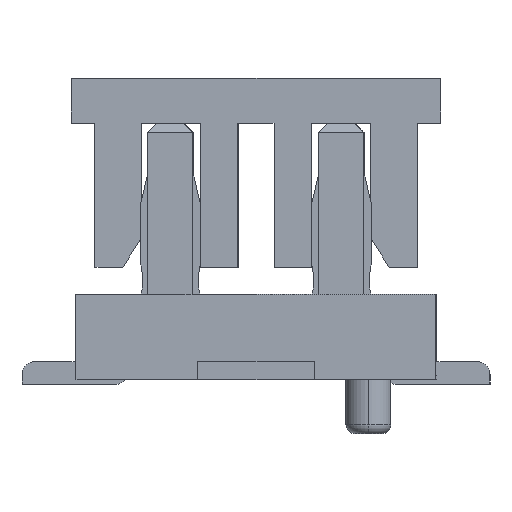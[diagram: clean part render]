
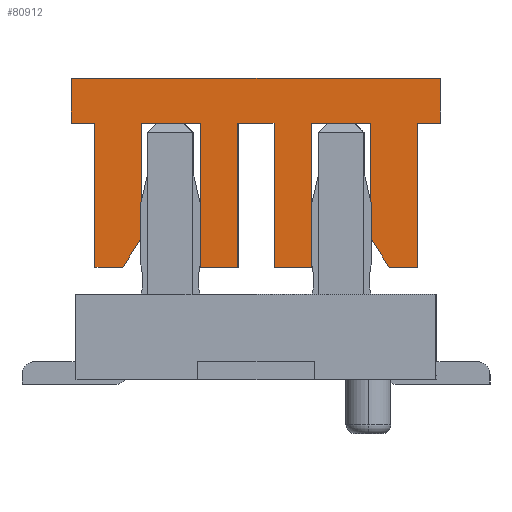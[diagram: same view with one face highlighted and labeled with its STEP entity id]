
A CAD part, left-side view. The second image highlights one B-rep face of the part: STEP entity #80912.
In plain terms, the highlighted planar face has unit normal (-1, 0, 0).
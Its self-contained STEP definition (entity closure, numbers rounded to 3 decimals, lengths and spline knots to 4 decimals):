
#80245=CARTESIAN_POINT('Vertex',(-4.,-0.62,1.25)) ;
#80250=CARTESIAN_POINT('Line Origine',(-4.,-0.41,1.25)) ;
#80254=CARTESIAN_POINT('Vertex',(-4.,-0.2,1.25)) ;
#80281=CARTESIAN_POINT('Line Origine',(-4.,-0.2,2.05)) ;
#80285=CARTESIAN_POINT('Vertex',(-4.,-0.2,2.85)) ;
#80312=CARTESIAN_POINT('Line Origine',(-4.,0.,2.85)) ;
#80316=CARTESIAN_POINT('Vertex',(-4.,0.2,2.85)) ;
#80343=CARTESIAN_POINT('Line Origine',(-4.,0.2,2.05)) ;
#80347=CARTESIAN_POINT('Vertex',(-4.,0.2,1.25)) ;
#80369=CARTESIAN_POINT('Line Origine',(-4.,0.41,1.25)) ;
#80373=CARTESIAN_POINT('Vertex',(-4.,0.62,1.25)) ;
#80400=CARTESIAN_POINT('Line Origine',(-4.,0.62,2.05)) ;
#80404=CARTESIAN_POINT('Vertex',(-4.,0.62,2.85)) ;
#80426=CARTESIAN_POINT('Line Origine',(-4.,0.945,2.85)) ;
#80430=CARTESIAN_POINT('Vertex',(-4.,1.27,2.85)) ;
#80457=CARTESIAN_POINT('Line Origine',(-4.,1.27,2.215)) ;
#80461=CARTESIAN_POINT('Vertex',(-4.,1.27,1.58)) ;
#80488=CARTESIAN_POINT('Line Origine',(-4.,1.375,1.415)) ;
#80492=CARTESIAN_POINT('Vertex',(-4.,1.48,1.25)) ;
#80514=CARTESIAN_POINT('Line Origine',(-4.,1.635,1.25)) ;
#80518=CARTESIAN_POINT('Vertex',(-4.,1.79,1.25)) ;
#80545=CARTESIAN_POINT('Line Origine',(-4.,1.79,2.05)) ;
#80549=CARTESIAN_POINT('Vertex',(-4.,1.79,2.85)) ;
#80571=CARTESIAN_POINT('Line Origine',(-4.,1.92,2.85)) ;
#80575=CARTESIAN_POINT('Vertex',(-4.,2.05,2.85)) ;
#80602=CARTESIAN_POINT('Line Origine',(-4.,2.05,3.1)) ;
#80606=CARTESIAN_POINT('Vertex',(-4.,2.05,3.35)) ;
#80633=CARTESIAN_POINT('Line Origine',(-4.,0.,3.35)) ;
#80637=CARTESIAN_POINT('Vertex',(-4.,-2.05,3.35)) ;
#80664=CARTESIAN_POINT('Line Origine',(-4.,-2.05,3.1)) ;
#80668=CARTESIAN_POINT('Vertex',(-4.,-2.05,2.85)) ;
#80690=CARTESIAN_POINT('Line Origine',(-4.,-1.92,2.85)) ;
#80694=CARTESIAN_POINT('Vertex',(-4.,-1.79,2.85)) ;
#80721=CARTESIAN_POINT('Line Origine',(-4.,-1.79,2.05)) ;
#80725=CARTESIAN_POINT('Vertex',(-4.,-1.79,1.25)) ;
#80747=CARTESIAN_POINT('Line Origine',(-4.,-1.635,1.25)) ;
#80751=CARTESIAN_POINT('Vertex',(-4.,-1.48,1.25)) ;
#80778=CARTESIAN_POINT('Line Origine',(-4.,-1.375,1.415)) ;
#80782=CARTESIAN_POINT('Vertex',(-4.,-1.27,1.58)) ;
#80809=CARTESIAN_POINT('Line Origine',(-4.,-1.27,2.215)) ;
#80813=CARTESIAN_POINT('Vertex',(-4.,-1.27,2.85)) ;
#80835=CARTESIAN_POINT('Line Origine',(-4.,-0.945,2.85)) ;
#80839=CARTESIAN_POINT('Vertex',(-4.,-0.62,2.85)) ;
#80866=CARTESIAN_POINT('Line Origine',(-4.,-0.62,2.05)) ;
#80883=CARTESIAN_POINT('Axis2P3D Location',(-4.,0.,0.)) ;
#80251=DIRECTION('Vector Direction',(0.,1.,0.)) ;
#80282=DIRECTION('Vector Direction',(0.,0.,1.)) ;
#80313=DIRECTION('Vector Direction',(0.,1.,0.)) ;
#80344=DIRECTION('Vector Direction',(0.,0.,-1.)) ;
#80370=DIRECTION('Vector Direction',(0.,1.,0.)) ;
#80401=DIRECTION('Vector Direction',(0.,0.,1.)) ;
#80427=DIRECTION('Vector Direction',(0.,1.,0.)) ;
#80458=DIRECTION('Vector Direction',(0.,0.,-1.)) ;
#80489=DIRECTION('Vector Direction',(0.,0.537,-0.844)) ;
#80515=DIRECTION('Vector Direction',(0.,1.,0.)) ;
#80546=DIRECTION('Vector Direction',(0.,0.,1.)) ;
#80572=DIRECTION('Vector Direction',(0.,1.,0.)) ;
#80603=DIRECTION('Vector Direction',(0.,0.,1.)) ;
#80634=DIRECTION('Vector Direction',(0.,1.,0.)) ;
#80665=DIRECTION('Vector Direction',(0.,0.,1.)) ;
#80691=DIRECTION('Vector Direction',(0.,-1.,0.)) ;
#80722=DIRECTION('Vector Direction',(0.,0.,1.)) ;
#80748=DIRECTION('Vector Direction',(0.,-1.,0.)) ;
#80779=DIRECTION('Vector Direction',(0.,-0.537,-0.844)) ;
#80810=DIRECTION('Vector Direction',(0.,0.,-1.)) ;
#80836=DIRECTION('Vector Direction',(0.,-1.,0.)) ;
#80867=DIRECTION('Vector Direction',(0.,0.,1.)) ;
#80884=DIRECTION('Axis2P3D Direction',(1.,0.,0.)) ;
#80885=DIRECTION('Axis2P3D XDirection',(0.,1.,0.)) ;
#80886=AXIS2_PLACEMENT_3D('Plane Axis2P3D',#80883,#80884,#80885) ;
#80889=ORIENTED_EDGE('',*,*,#80870,.F.) ;
#80890=ORIENTED_EDGE('',*,*,#80841,.F.) ;
#80891=ORIENTED_EDGE('',*,*,#80815,.F.) ;
#80892=ORIENTED_EDGE('',*,*,#80784,.F.) ;
#80893=ORIENTED_EDGE('',*,*,#80753,.F.) ;
#80894=ORIENTED_EDGE('',*,*,#80727,.F.) ;
#80895=ORIENTED_EDGE('',*,*,#80696,.F.) ;
#80896=ORIENTED_EDGE('',*,*,#80670,.F.) ;
#80897=ORIENTED_EDGE('',*,*,#80639,.F.) ;
#80898=ORIENTED_EDGE('',*,*,#80608,.F.) ;
#80899=ORIENTED_EDGE('',*,*,#80577,.F.) ;
#80900=ORIENTED_EDGE('',*,*,#80551,.F.) ;
#80901=ORIENTED_EDGE('',*,*,#80520,.F.) ;
#80902=ORIENTED_EDGE('',*,*,#80494,.F.) ;
#80903=ORIENTED_EDGE('',*,*,#80463,.F.) ;
#80904=ORIENTED_EDGE('',*,*,#80432,.F.) ;
#80905=ORIENTED_EDGE('',*,*,#80406,.F.) ;
#80906=ORIENTED_EDGE('',*,*,#80375,.F.) ;
#80907=ORIENTED_EDGE('',*,*,#80349,.F.) ;
#80908=ORIENTED_EDGE('',*,*,#80318,.F.) ;
#80909=ORIENTED_EDGE('',*,*,#80287,.F.) ;
#80910=ORIENTED_EDGE('',*,*,#80256,.F.) ;
#80252=VECTOR('Line Direction',#80251,1.) ;
#80283=VECTOR('Line Direction',#80282,1.) ;
#80314=VECTOR('Line Direction',#80313,1.) ;
#80345=VECTOR('Line Direction',#80344,1.) ;
#80371=VECTOR('Line Direction',#80370,1.) ;
#80402=VECTOR('Line Direction',#80401,1.) ;
#80428=VECTOR('Line Direction',#80427,1.) ;
#80459=VECTOR('Line Direction',#80458,1.) ;
#80490=VECTOR('Line Direction',#80489,1.) ;
#80516=VECTOR('Line Direction',#80515,1.) ;
#80547=VECTOR('Line Direction',#80546,1.) ;
#80573=VECTOR('Line Direction',#80572,1.) ;
#80604=VECTOR('Line Direction',#80603,1.) ;
#80635=VECTOR('Line Direction',#80634,1.) ;
#80666=VECTOR('Line Direction',#80665,1.) ;
#80692=VECTOR('Line Direction',#80691,1.) ;
#80723=VECTOR('Line Direction',#80722,1.) ;
#80749=VECTOR('Line Direction',#80748,1.) ;
#80780=VECTOR('Line Direction',#80779,1.) ;
#80811=VECTOR('Line Direction',#80810,1.) ;
#80837=VECTOR('Line Direction',#80836,1.) ;
#80868=VECTOR('Line Direction',#80867,1.) ;
#80912=ADVANCED_FACE('\X2\76D65B50\X0\',(#80911),#80887,.F.) ;
#80256=EDGE_CURVE('',#80246,#80255,#80253,.T.) ;
#80287=EDGE_CURVE('',#80255,#80286,#80284,.T.) ;
#80318=EDGE_CURVE('',#80286,#80317,#80315,.T.) ;
#80349=EDGE_CURVE('',#80317,#80348,#80346,.T.) ;
#80375=EDGE_CURVE('',#80348,#80374,#80372,.T.) ;
#80406=EDGE_CURVE('',#80374,#80405,#80403,.T.) ;
#80432=EDGE_CURVE('',#80405,#80431,#80429,.T.) ;
#80463=EDGE_CURVE('',#80431,#80462,#80460,.T.) ;
#80494=EDGE_CURVE('',#80462,#80493,#80491,.T.) ;
#80520=EDGE_CURVE('',#80493,#80519,#80517,.T.) ;
#80551=EDGE_CURVE('',#80519,#80550,#80548,.T.) ;
#80577=EDGE_CURVE('',#80550,#80576,#80574,.T.) ;
#80608=EDGE_CURVE('',#80576,#80607,#80605,.T.) ;
#80639=EDGE_CURVE('',#80607,#80638,#80636,.F.) ;
#80670=EDGE_CURVE('',#80638,#80669,#80667,.F.) ;
#80696=EDGE_CURVE('',#80669,#80695,#80693,.F.) ;
#80727=EDGE_CURVE('',#80695,#80726,#80724,.F.) ;
#80753=EDGE_CURVE('',#80726,#80752,#80750,.F.) ;
#80784=EDGE_CURVE('',#80752,#80783,#80781,.F.) ;
#80815=EDGE_CURVE('',#80783,#80814,#80812,.F.) ;
#80841=EDGE_CURVE('',#80814,#80840,#80838,.F.) ;
#80870=EDGE_CURVE('',#80840,#80246,#80869,.F.) ;
#80888=EDGE_LOOP('',(#80889,#80890,#80891,#80892,#80893,#80894,#80895,#80896,#80897,#80898,#80899,#80900,#80901,#80902,#80903,#80904,#80905,#80906,#80907,#80908,#80909,#80910)) ;
#80911=FACE_OUTER_BOUND('',#80888,.T.) ;
#80253=LINE('Line',#80250,#80252) ;
#80284=LINE('Line',#80281,#80283) ;
#80315=LINE('Line',#80312,#80314) ;
#80346=LINE('Line',#80343,#80345) ;
#80372=LINE('Line',#80369,#80371) ;
#80403=LINE('Line',#80400,#80402) ;
#80429=LINE('Line',#80426,#80428) ;
#80460=LINE('Line',#80457,#80459) ;
#80491=LINE('Line',#80488,#80490) ;
#80517=LINE('Line',#80514,#80516) ;
#80548=LINE('Line',#80545,#80547) ;
#80574=LINE('Line',#80571,#80573) ;
#80605=LINE('Line',#80602,#80604) ;
#80636=LINE('Line',#80633,#80635) ;
#80667=LINE('Line',#80664,#80666) ;
#80693=LINE('Line',#80690,#80692) ;
#80724=LINE('Line',#80721,#80723) ;
#80750=LINE('Line',#80747,#80749) ;
#80781=LINE('Line',#80778,#80780) ;
#80812=LINE('Line',#80809,#80811) ;
#80838=LINE('Line',#80835,#80837) ;
#80869=LINE('Line',#80866,#80868) ;
#80887=PLANE('Plane',#80886) ;
#80246=VERTEX_POINT('',#80245) ;
#80255=VERTEX_POINT('',#80254) ;
#80286=VERTEX_POINT('',#80285) ;
#80317=VERTEX_POINT('',#80316) ;
#80348=VERTEX_POINT('',#80347) ;
#80374=VERTEX_POINT('',#80373) ;
#80405=VERTEX_POINT('',#80404) ;
#80431=VERTEX_POINT('',#80430) ;
#80462=VERTEX_POINT('',#80461) ;
#80493=VERTEX_POINT('',#80492) ;
#80519=VERTEX_POINT('',#80518) ;
#80550=VERTEX_POINT('',#80549) ;
#80576=VERTEX_POINT('',#80575) ;
#80607=VERTEX_POINT('',#80606) ;
#80638=VERTEX_POINT('',#80637) ;
#80669=VERTEX_POINT('',#80668) ;
#80695=VERTEX_POINT('',#80694) ;
#80726=VERTEX_POINT('',#80725) ;
#80752=VERTEX_POINT('',#80751) ;
#80783=VERTEX_POINT('',#80782) ;
#80814=VERTEX_POINT('',#80813) ;
#80840=VERTEX_POINT('',#80839) ;
